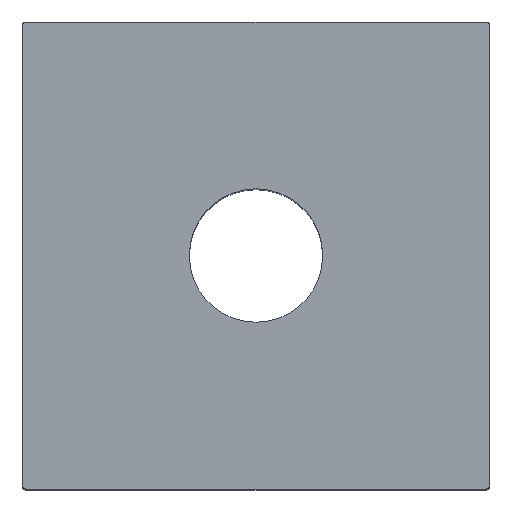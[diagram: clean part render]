
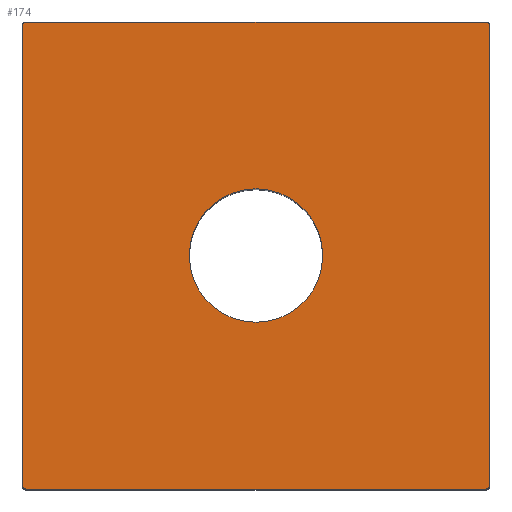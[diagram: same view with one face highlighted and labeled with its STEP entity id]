
A CAD part, top view. The second image highlights one B-rep face of the part: STEP entity #174.
In plain terms, the highlighted planar face has unit normal (0, 0, 1).
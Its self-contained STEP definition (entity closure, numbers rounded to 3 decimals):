
#174=ADVANCED_FACE('',(#213,#214),#202,.T.);
#202=PLANE('',#625);
#213=FACE_BOUND('',#217,.T.);
#214=FACE_BOUND('',#218,.T.);
#217=EDGE_LOOP('',(#323,#324,#325,#326,#327,#328,#329,#330));
#218=EDGE_LOOP('',(#331,#332));
#249=LINE('',#781,#283);
#250=LINE('',#785,#284);
#251=LINE('',#789,#285);
#252=LINE('',#793,#286);
#283=VECTOR('',#670,1.);
#284=VECTOR('',#673,1.);
#285=VECTOR('',#676,1.);
#286=VECTOR('',#679,1.);
#323=ORIENTED_EDGE('',*,*,#531,.T.);
#324=ORIENTED_EDGE('',*,*,#532,.T.);
#325=ORIENTED_EDGE('',*,*,#533,.T.);
#326=ORIENTED_EDGE('',*,*,#534,.T.);
#327=ORIENTED_EDGE('',*,*,#535,.T.);
#328=ORIENTED_EDGE('',*,*,#536,.T.);
#329=ORIENTED_EDGE('',*,*,#537,.T.);
#330=ORIENTED_EDGE('',*,*,#538,.T.);
#331=ORIENTED_EDGE('',*,*,#539,.T.);
#332=ORIENTED_EDGE('',*,*,#540,.T.);
#479=VERTEX_POINT('',#779);
#480=VERTEX_POINT('',#780);
#481=VERTEX_POINT('',#782);
#482=VERTEX_POINT('',#784);
#483=VERTEX_POINT('',#786);
#484=VERTEX_POINT('',#788);
#485=VERTEX_POINT('',#790);
#486=VERTEX_POINT('',#792);
#487=VERTEX_POINT('',#795);
#488=VERTEX_POINT('',#796);
#531=EDGE_CURVE('',#479,#480,#605,.T.);
#532=EDGE_CURVE('',#480,#481,#249,.T.);
#533=EDGE_CURVE('',#481,#482,#606,.T.);
#534=EDGE_CURVE('',#482,#483,#250,.T.);
#535=EDGE_CURVE('',#483,#484,#607,.T.);
#536=EDGE_CURVE('',#484,#485,#251,.T.);
#537=EDGE_CURVE('',#485,#486,#608,.T.);
#538=EDGE_CURVE('',#486,#479,#252,.T.);
#539=EDGE_CURVE('',#487,#488,#609,.T.);
#540=EDGE_CURVE('',#488,#487,#610,.T.);
#605=CIRCLE('',#619,0.5);
#606=CIRCLE('',#620,0.5);
#607=CIRCLE('',#621,0.5);
#608=CIRCLE('',#622,0.5);
#609=CIRCLE('',#623,10.);
#610=CIRCLE('',#624,10.);
#619=AXIS2_PLACEMENT_3D('',#778,#668,#669);
#620=AXIS2_PLACEMENT_3D('',#783,#671,#672);
#621=AXIS2_PLACEMENT_3D('',#787,#674,#675);
#622=AXIS2_PLACEMENT_3D('',#791,#677,#678);
#623=AXIS2_PLACEMENT_3D('',#794,#680,#681);
#624=AXIS2_PLACEMENT_3D('',#797,#682,#683);
#625=AXIS2_PLACEMENT_3D('',#798,#684,#685);
#668=DIRECTION('',(0.,0.,1.));
#669=DIRECTION('',(-0.707,0.707,0.));
#670=DIRECTION('',(0.,1.,0.));
#671=DIRECTION('',(0.,0.,1.));
#672=DIRECTION('',(-0.707,-0.707,0.));
#673=DIRECTION('',(-1.,0.,0.));
#674=DIRECTION('',(0.,0.,1.));
#675=DIRECTION('',(0.707,-0.707,0.));
#676=DIRECTION('',(0.,-1.,0.));
#677=DIRECTION('',(0.,0.,1.));
#678=DIRECTION('',(0.707,0.707,0.));
#679=DIRECTION('',(1.,0.,0.));
#680=DIRECTION('',(0.,0.,-1.));
#681=DIRECTION('',(-1.,0.,0.));
#682=DIRECTION('',(0.,0.,-1.));
#683=DIRECTION('',(1.,0.,0.));
#684=DIRECTION('',(0.,0.,1.));
#685=DIRECTION('',(-1.,0.,0.));
#778=CARTESIAN_POINT('',(34.5,-34.5,82.));
#779=CARTESIAN_POINT('',(34.5,-35.,82.));
#780=CARTESIAN_POINT('',(35.,-34.5,82.));
#781=CARTESIAN_POINT('',(35.,-34.5,82.));
#782=CARTESIAN_POINT('',(35.,34.5,82.));
#783=CARTESIAN_POINT('',(34.5,34.5,82.));
#784=CARTESIAN_POINT('',(34.5,35.,82.));
#785=CARTESIAN_POINT('',(-34.5,35.,82.));
#786=CARTESIAN_POINT('',(-34.5,35.,82.));
#787=CARTESIAN_POINT('',(-34.5,34.5,82.));
#788=CARTESIAN_POINT('',(-35.,34.5,82.));
#789=CARTESIAN_POINT('',(-35.,-34.5,82.));
#790=CARTESIAN_POINT('',(-35.,-34.5,82.));
#791=CARTESIAN_POINT('',(-34.5,-34.5,82.));
#792=CARTESIAN_POINT('',(-34.5,-35.,82.));
#793=CARTESIAN_POINT('',(-34.5,-35.,82.));
#794=CARTESIAN_POINT('',(0.,0.,82.));
#795=CARTESIAN_POINT('',(0.,10.,82.));
#796=CARTESIAN_POINT('',(0.,-10.,82.));
#797=CARTESIAN_POINT('',(0.,0.,82.));
#798=CARTESIAN_POINT('',(34.5,-35.,82.));
